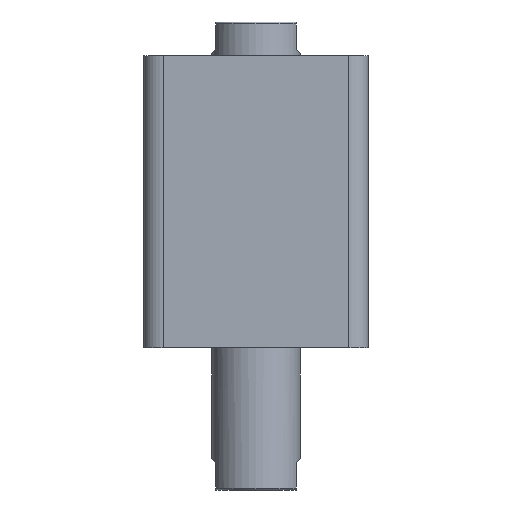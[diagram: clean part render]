
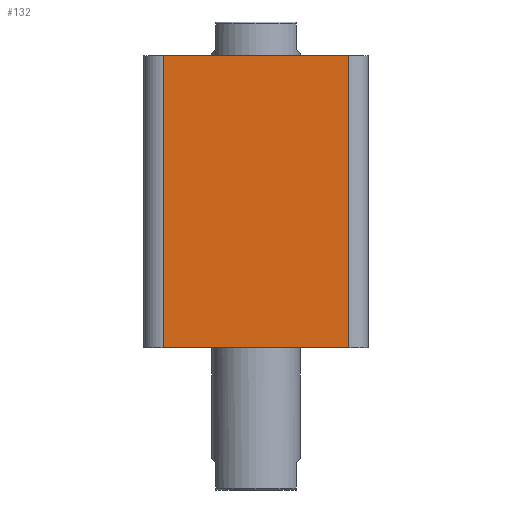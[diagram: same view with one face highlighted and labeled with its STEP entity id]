
A CAD part, front view. The second image highlights one B-rep face of the part: STEP entity #132.
In plain terms, the highlighted planar face has unit normal (0, -1, 0).
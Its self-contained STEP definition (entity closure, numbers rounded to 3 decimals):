
#132 = ADVANCED_FACE ( 'NONE', ( #1263 ), #221, .F. ) ;
#181 = CARTESIAN_POINT ( 'NONE',  ( -57., -57., 148. ) ) ;
#218 = DIRECTION ( 'NONE',  ( 0., 0., 1. ) ) ;
#219 = DIRECTION ( 'NONE',  ( 0., 1., 0. ) ) ;
#221 = PLANE ( 'NONE',  #2394 ) ;
#344 = CARTESIAN_POINT ( 'NONE',  ( 47., -57., 0. ) ) ;
#345 = CARTESIAN_POINT ( 'NONE',  ( -47., -57., 0. ) ) ;
#346 = CARTESIAN_POINT ( 'NONE',  ( -47., -57., 148. ) ) ;
#348 = CARTESIAN_POINT ( 'NONE',  ( 47., -57., 148. ) ) ;
#1052 = VERTEX_POINT ( 'NONE', #344 ) ;
#1053 = VERTEX_POINT ( 'NONE', #345 ) ;
#1054 = VERTEX_POINT ( 'NONE', #346 ) ;
#1056 = VERTEX_POINT ( 'NONE', #348 ) ;
#1131 = EDGE_LOOP ( 'NONE', ( #2996, #3073, #3049, #2972 ) ) ;
#1263 = FACE_OUTER_BOUND ( 'NONE', #1131, .T. ) ;
#1623 = LINE ( 'NONE', #2571, #1634 ) ;
#1629 = LINE ( 'NONE', #2581, #1632 ) ;
#1632 = VECTOR ( 'NONE', #2582, 1000. ) ;
#1633 = LINE ( 'NONE', #2584, #1636 ) ;
#1634 = VECTOR ( 'NONE', #2583, 1000. ) ;
#1635 = LINE ( 'NONE', #2586, #1638 ) ;
#1636 = VECTOR ( 'NONE', #2585, 1000. ) ;
#1638 = VECTOR ( 'NONE', #2587, 1000. ) ;
#2288 = EDGE_CURVE ( 'NONE', #1053, #1052, #1629, .T. ) ;
#2289 = EDGE_CURVE ( 'NONE', #1052, #1056, #1623, .T. ) ;
#2290 = EDGE_CURVE ( 'NONE', #1054, #1056, #1633, .T. ) ;
#2291 = EDGE_CURVE ( 'NONE', #1054, #1053, #1635, .T. ) ;
#2394 = AXIS2_PLACEMENT_3D ( 'NONE', #181, #219, #218 ) ;
#2571 = CARTESIAN_POINT ( 'NONE',  ( 47., -57., 148. ) ) ;
#2581 = CARTESIAN_POINT ( 'NONE',  ( -57., -57., 0. ) ) ;
#2582 = DIRECTION ( 'NONE',  ( 1., 0., 0. ) ) ;
#2583 = DIRECTION ( 'NONE',  ( 0., 0., 1. ) ) ;
#2584 = CARTESIAN_POINT ( 'NONE',  ( -57., -57., 148. ) ) ;
#2585 = DIRECTION ( 'NONE',  ( 1., 0., 0. ) ) ;
#2586 = CARTESIAN_POINT ( 'NONE',  ( -47., -57., 148. ) ) ;
#2587 = DIRECTION ( 'NONE',  ( 0., 0., -1. ) ) ;
#2972 = ORIENTED_EDGE ( 'NONE', *, *, #2291, .T. ) ;
#2996 = ORIENTED_EDGE ( 'NONE', *, *, #2288, .T. ) ;
#3049 = ORIENTED_EDGE ( 'NONE', *, *, #2290, .F. ) ;
#3073 = ORIENTED_EDGE ( 'NONE', *, *, #2289, .T. ) ;
